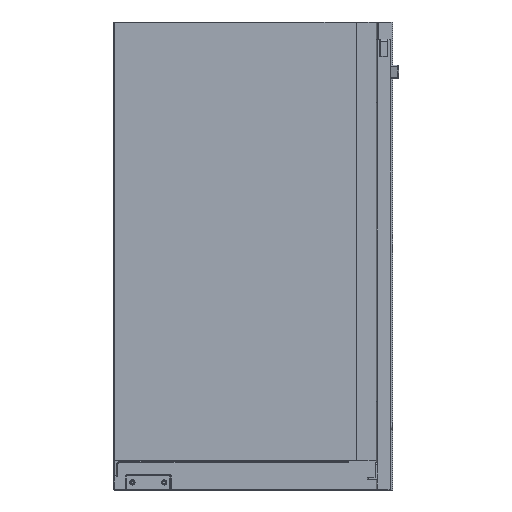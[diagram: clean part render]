
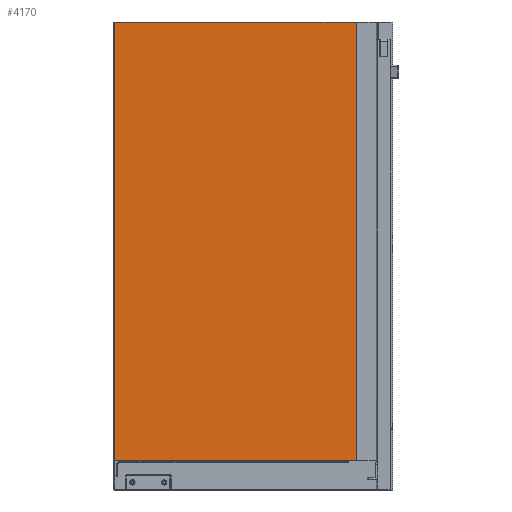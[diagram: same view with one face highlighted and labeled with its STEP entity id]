
A CAD part, left-side view. The second image highlights one B-rep face of the part: STEP entity #4170.
In plain terms, the highlighted planar face has unit normal (-1, 0, 0).
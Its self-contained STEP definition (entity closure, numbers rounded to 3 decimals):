
#59 = FACE_OUTER_BOUND ( 'NONE', #7052, .T. ) ;
#96 = CARTESIAN_POINT ( 'NONE',  ( 0.5, 205.8, -462.455 ) ) ;
#213 = DIRECTION ( 'NONE',  ( 0., 0., 1. ) ) ;
#396 = DIRECTION ( 'NONE',  ( 0., 1., 0. ) ) ;
#807 = VERTEX_POINT ( 'NONE', #1609 ) ;
#814 = CARTESIAN_POINT ( 'NONE',  ( 0.5, 0., -373.5 ) ) ;
#1459 = LINE ( 'NONE', #814, #9451 ) ;
#1609 = CARTESIAN_POINT ( 'NONE',  ( 0.5, 0., 0. ) ) ;
#2292 = CARTESIAN_POINT ( 'NONE',  ( 0.5, 0., -462.455 ) ) ;
#2541 = CARTESIAN_POINT ( 'NONE',  ( 0.5, 0., 0. ) ) ;
#2734 = DIRECTION ( 'NONE',  ( 0., 0., 1. ) ) ;
#3606 = LINE ( 'NONE', #2541, #8268 ) ;
#4170 = ADVANCED_FACE ( 'NONE', ( #59 ), #12050, .T. ) ;
#4910 = LINE ( 'NONE', #10587, #6949 ) ;
#4915 = CARTESIAN_POINT ( 'NONE',  ( 0.5, 205.8, 0. ) ) ;
#6081 = EDGE_CURVE ( 'NONE', #10650, #807, #4910, .T. ) ;
#6393 = DIRECTION ( 'NONE',  ( -1., 0., 0. ) ) ;
#6943 = VERTEX_POINT ( 'NONE', #8018 ) ;
#6949 = VECTOR ( 'NONE', #2734, 1000. ) ;
#7052 = EDGE_LOOP ( 'NONE', ( #7538, #8589, #8694, #9354 ) ) ;
#7262 = DIRECTION ( 'NONE',  ( 0., 0., 1. ) ) ;
#7538 = ORIENTED_EDGE ( 'NONE', *, *, #11419, .F. ) ;
#7878 = VECTOR ( 'NONE', #7262, 1000. ) ;
#7925 = DIRECTION ( 'NONE',  ( 0., 1., 0. ) ) ;
#7973 = VERTEX_POINT ( 'NONE', #4915 ) ;
#8018 = CARTESIAN_POINT ( 'NONE',  ( 0.5, 205.8, -373.5 ) ) ;
#8038 = CARTESIAN_POINT ( 'NONE',  ( 0.5, 0., -373.5 ) ) ;
#8268 = VECTOR ( 'NONE', #396, 1000. ) ;
#8286 = EDGE_CURVE ( 'NONE', #807, #7973, #3606, .T. ) ;
#8589 = ORIENTED_EDGE ( 'NONE', *, *, #9580, .F. ) ;
#8694 = ORIENTED_EDGE ( 'NONE', *, *, #6081, .T. ) ;
#9354 = ORIENTED_EDGE ( 'NONE', *, *, #8286, .T. ) ;
#9451 = VECTOR ( 'NONE', #7925, 1000. ) ;
#9580 = EDGE_CURVE ( 'NONE', #10650, #6943, #1459, .T. ) ;
#10426 = LINE ( 'NONE', #96, #7878 ) ;
#10477 = AXIS2_PLACEMENT_3D ( 'NONE', #2292, #6393, #213 ) ;
#10587 = CARTESIAN_POINT ( 'NONE',  ( 0.5, 0., -462.455 ) ) ;
#10650 = VERTEX_POINT ( 'NONE', #8038 ) ;
#11419 = EDGE_CURVE ( 'NONE', #6943, #7973, #10426, .T. ) ;
#12050 = PLANE ( 'NONE',  #10477 ) ;
